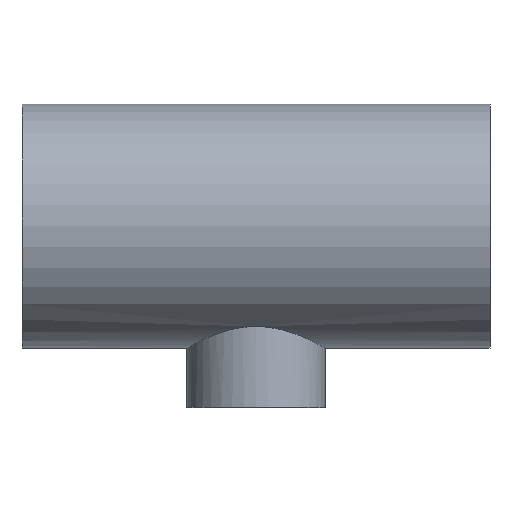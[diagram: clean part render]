
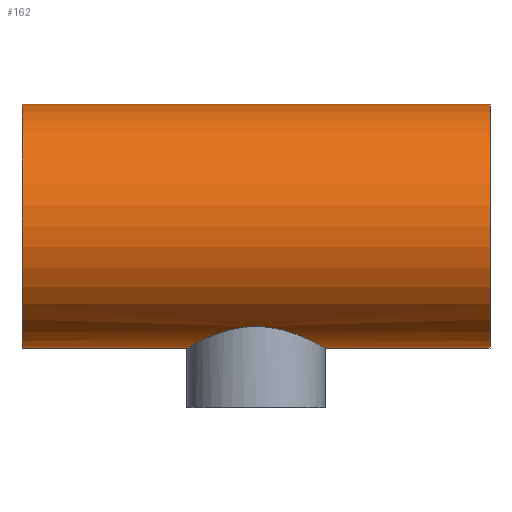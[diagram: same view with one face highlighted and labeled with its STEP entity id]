
A CAD part, top view. The second image highlights one B-rep face of the part: STEP entity #162.
In plain terms, the highlighted cylindrical face has radius 37 mm (diameter 74 mm), a full revolution.
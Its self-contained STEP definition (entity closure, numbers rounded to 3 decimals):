
#16=B_SPLINE_CURVE_WITH_KNOTS('',3,(#328,#329,#330,#331,#332,#333,#334,
#335,#336,#337,#338,#339,#340,#341,#342,#343,#344,#345,#346,#347,#348,#349,
#350,#351,#352,#353,#354,#355,#356,#357,#358,#359,#360,#361,#362,#363,#364,
#365,#366,#367,#368,#369,#370,#371,#372,#373,#374,#375,#376,#377,#378,#379,
#380,#381,#382,#383,#384,#385,#386,#387,#388,#389,#390,#391,#392,#393),
 .UNSPECIFIED.,.T.,.F.,(4,2,2,2,2,2,2,2,2,2,2,2,2,2,2,2,2,2,2,2,2,2,2,2,
2,2,2,2,2,2,2,2,4),(0.,0.407,0.815,1.222,
1.63,2.035,2.441,2.846,3.251,
3.657,4.062,4.468,4.873,5.281,
5.688,6.096,6.503,6.91,7.318,
7.725,8.133,8.538,8.944,9.349,
9.754,10.16,10.565,10.971,11.376,
11.784,12.191,12.599,13.006),
 .UNSPECIFIED.);
#32=FACE_BOUND('',#69,.T.);
#33=FACE_BOUND('',#70,.T.);
#46=FACE_OUTER_BOUND('',#68,.T.);
#68=EDGE_LOOP('',(#136));
#69=EDGE_LOOP('',(#137));
#70=EDGE_LOOP('',(#138));
#88=CIRCLE('',#187,37.);
#89=CIRCLE('',#188,37.);
#101=VERTEX_POINT('',#325);
#102=VERTEX_POINT('',#327);
#103=VERTEX_POINT('',#394);
#115=EDGE_CURVE('',#101,#101,#88,.T.);
#116=EDGE_CURVE('',#102,#102,#16,.T.);
#117=EDGE_CURVE('',#103,#103,#89,.T.);
#136=ORIENTED_EDGE('',*,*,#115,.F.);
#137=ORIENTED_EDGE('',*,*,#116,.T.);
#138=ORIENTED_EDGE('',*,*,#117,.F.);
#152=CYLINDRICAL_SURFACE('',#186,37.);
#162=ADVANCED_FACE('',(#46,#32,#33),#152,.T.);
#186=AXIS2_PLACEMENT_3D('',#324,#230,#231);
#187=AXIS2_PLACEMENT_3D('',#326,#232,#233);
#188=AXIS2_PLACEMENT_3D('',#395,#234,#235);
#230=DIRECTION('center_axis',(1.,0.,0.));
#231=DIRECTION('ref_axis',(0.,-1.,0.));
#232=DIRECTION('center_axis',(-1.,0.,0.));
#233=DIRECTION('ref_axis',(0.,-1.,0.));
#234=DIRECTION('center_axis',(1.,0.,0.));
#235=DIRECTION('ref_axis',(0.,-1.,0.));
#324=CARTESIAN_POINT('Origin',(0.,0.,0.));
#325=CARTESIAN_POINT('',(-71.,37.,0.));
#326=CARTESIAN_POINT('Origin',(-71.,0.,0.));
#327=CARTESIAN_POINT('',(0.,-30.463,21.));
#328=CARTESIAN_POINT('Ctrl Pts',(0.,-30.463,
21.));
#329=CARTESIAN_POINT('Ctrl Pts',(1.358,-30.463,21.));
#330=CARTESIAN_POINT('Ctrl Pts',(2.748,-30.557,20.866));
#331=CARTESIAN_POINT('Ctrl Pts',(5.488,-30.924,20.318));
#332=CARTESIAN_POINT('Ctrl Pts',(6.838,-31.196,19.904));
#333=CARTESIAN_POINT('Ctrl Pts',(9.411,-31.859,18.825));
#334=CARTESIAN_POINT('Ctrl Pts',(10.636,-32.249,18.159));
#335=CARTESIAN_POINT('Ctrl Pts',(12.896,-33.064,16.63));
#336=CARTESIAN_POINT('Ctrl Pts',(13.932,-33.488,15.767));
#337=CARTESIAN_POINT('Ctrl Pts',(15.762,-34.289,13.936));
#338=CARTESIAN_POINT('Ctrl Pts',(16.624,-34.698,12.903));
#339=CARTESIAN_POINT('Ctrl Pts',(18.155,-35.457,10.642));
#340=CARTESIAN_POINT('Ctrl Pts',(18.824,-35.807,9.414));
#341=CARTESIAN_POINT('Ctrl Pts',(19.906,-36.387,6.834));
#342=CARTESIAN_POINT('Ctrl Pts',(20.32,-36.618,5.481));
#343=CARTESIAN_POINT('Ctrl Pts',(20.867,-36.924,2.739));
#344=CARTESIAN_POINT('Ctrl Pts',(21.,-37.,1.351));
#345=CARTESIAN_POINT('Ctrl Pts',(21.,-37.,-1.351));
#346=CARTESIAN_POINT('Ctrl Pts',(20.867,-36.924,-2.739));
#347=CARTESIAN_POINT('Ctrl Pts',(20.32,-36.618,-5.481));
#348=CARTESIAN_POINT('Ctrl Pts',(19.906,-36.387,-6.834));
#349=CARTESIAN_POINT('Ctrl Pts',(18.824,-35.807,-9.414));
#350=CARTESIAN_POINT('Ctrl Pts',(18.155,-35.457,-10.642));
#351=CARTESIAN_POINT('Ctrl Pts',(16.624,-34.698,-12.903));
#352=CARTESIAN_POINT('Ctrl Pts',(15.762,-34.289,-13.936));
#353=CARTESIAN_POINT('Ctrl Pts',(13.932,-33.488,-15.767));
#354=CARTESIAN_POINT('Ctrl Pts',(12.896,-33.064,-16.63));
#355=CARTESIAN_POINT('Ctrl Pts',(10.636,-32.249,-18.159));
#356=CARTESIAN_POINT('Ctrl Pts',(9.411,-31.859,-18.825));
#357=CARTESIAN_POINT('Ctrl Pts',(6.838,-31.196,-19.904));
#358=CARTESIAN_POINT('Ctrl Pts',(5.488,-30.924,-20.318));
#359=CARTESIAN_POINT('Ctrl Pts',(2.748,-30.557,-20.866));
#360=CARTESIAN_POINT('Ctrl Pts',(1.358,-30.463,-21.));
#361=CARTESIAN_POINT('Ctrl Pts',(-1.358,-30.463,-21.));
#362=CARTESIAN_POINT('Ctrl Pts',(-2.748,-30.557,-20.866));
#363=CARTESIAN_POINT('Ctrl Pts',(-5.488,-30.924,-20.318));
#364=CARTESIAN_POINT('Ctrl Pts',(-6.838,-31.196,-19.904));
#365=CARTESIAN_POINT('Ctrl Pts',(-9.411,-31.859,-18.825));
#366=CARTESIAN_POINT('Ctrl Pts',(-10.636,-32.249,-18.159));
#367=CARTESIAN_POINT('Ctrl Pts',(-12.896,-33.064,-16.63));
#368=CARTESIAN_POINT('Ctrl Pts',(-13.932,-33.488,-15.767));
#369=CARTESIAN_POINT('Ctrl Pts',(-15.762,-34.289,-13.936));
#370=CARTESIAN_POINT('Ctrl Pts',(-16.624,-34.698,-12.903));
#371=CARTESIAN_POINT('Ctrl Pts',(-18.155,-35.457,-10.642));
#372=CARTESIAN_POINT('Ctrl Pts',(-18.824,-35.807,-9.414));
#373=CARTESIAN_POINT('Ctrl Pts',(-19.906,-36.387,-6.834));
#374=CARTESIAN_POINT('Ctrl Pts',(-20.32,-36.618,-5.481));
#375=CARTESIAN_POINT('Ctrl Pts',(-20.867,-36.924,-2.739));
#376=CARTESIAN_POINT('Ctrl Pts',(-21.,-37.,-1.351));
#377=CARTESIAN_POINT('Ctrl Pts',(-21.,-37.,1.351));
#378=CARTESIAN_POINT('Ctrl Pts',(-20.867,-36.924,2.739));
#379=CARTESIAN_POINT('Ctrl Pts',(-20.32,-36.618,5.481));
#380=CARTESIAN_POINT('Ctrl Pts',(-19.906,-36.387,6.834));
#381=CARTESIAN_POINT('Ctrl Pts',(-18.824,-35.807,9.414));
#382=CARTESIAN_POINT('Ctrl Pts',(-18.155,-35.457,10.642));
#383=CARTESIAN_POINT('Ctrl Pts',(-16.624,-34.698,12.903));
#384=CARTESIAN_POINT('Ctrl Pts',(-15.762,-34.289,13.936));
#385=CARTESIAN_POINT('Ctrl Pts',(-13.932,-33.488,15.767));
#386=CARTESIAN_POINT('Ctrl Pts',(-12.896,-33.064,16.63));
#387=CARTESIAN_POINT('Ctrl Pts',(-10.636,-32.249,18.159));
#388=CARTESIAN_POINT('Ctrl Pts',(-9.411,-31.859,18.825));
#389=CARTESIAN_POINT('Ctrl Pts',(-6.838,-31.196,19.904));
#390=CARTESIAN_POINT('Ctrl Pts',(-5.488,-30.924,20.318));
#391=CARTESIAN_POINT('Ctrl Pts',(-2.748,-30.557,20.866));
#392=CARTESIAN_POINT('Ctrl Pts',(-1.358,-30.463,21.));
#393=CARTESIAN_POINT('Ctrl Pts',(0.,-30.463,21.));
#394=CARTESIAN_POINT('',(71.,37.,0.));
#395=CARTESIAN_POINT('Origin',(71.,0.,0.));
